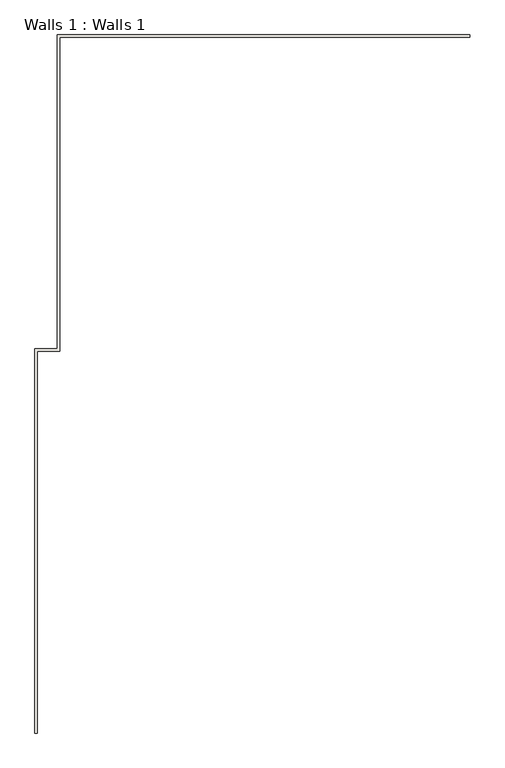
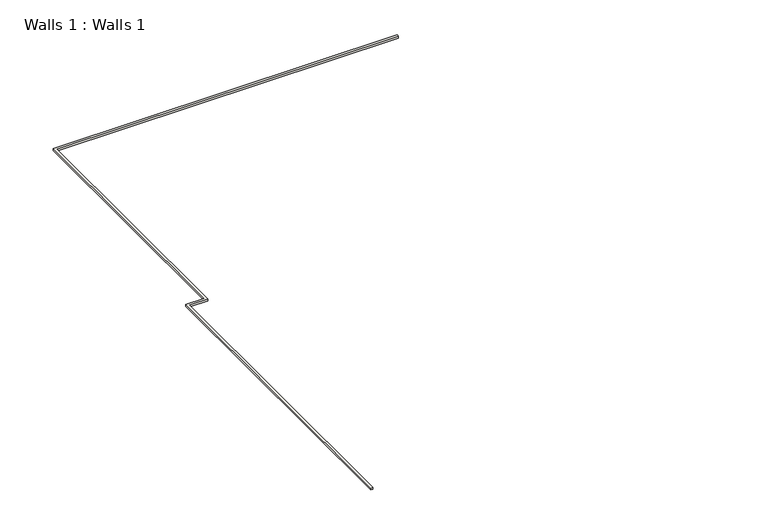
"""IFC4 building model written with IfcOpenShell, lengths in millimetres: wall geometry, Walls 1 : Walls 1."""

from ifc_helpers import new_model, si_unit, frame, origin, place, context, project, spatial, polyline, outline, extrude, source, transform, mapped, element, save


def walls_1_walls_1_262d12b9(model_context):
    return source(origin(), model_context, "Body", "SweptSolid", [
        extrude(outline(polyline([(7814.5517773, 8713.1282405), (7789.1517773, 8713.1282405), (7789.1517773, 12666.9909405), (8017.6549773, 12666.9909405), (8017.6549773, 15892.7909405), (12261.2247773, 15892.7909405), (12261.2247773, 15867.3909405), (8043.0549773, 15867.3909405), (8043.0549773, 12641.5909405), (7814.5517773, 12641.5909405), (7814.5517773, 8713.1282405)])), frame((0.0, 0.0, -25.4), z_axis=(0.0, 0.0, 1.0), x_axis=(1.0, 0.0, 0.0)), (0.0, 0.0, 1.0), 25.4),
    ])


if __name__ == "__main__":
    model = new_model("IFC4")
    model_context = context("Model", 3, world=origin())
    ifc_project = project(units=[si_unit("LENGTHUNIT", "METRE", prefix="MILLI")], contexts=[model_context])
    site = spatial("IfcSite", under=ifc_project)
    building = spatial("IfcBuilding", under=site)
    placement = place(None, origin())
    walls_1_walls_1_shape = walls_1_walls_1_262d12b9(model_context)
    element("IfcWall", 1, ObjectType="Walls 1 : Walls 1", at=placement, inside=building, context=model_context, shape_type="MappedRepresentation", body=[
        mapped(walls_1_walls_1_shape, transform((0.0, 0.0, 0.0), x_axis=(1.0, 0.0, 0.0), y_axis=(0.0, 1.0, 0.0), z_axis=(0.0, 0.0, 1.0))),
    ])
    save(model, "model.ifc")
